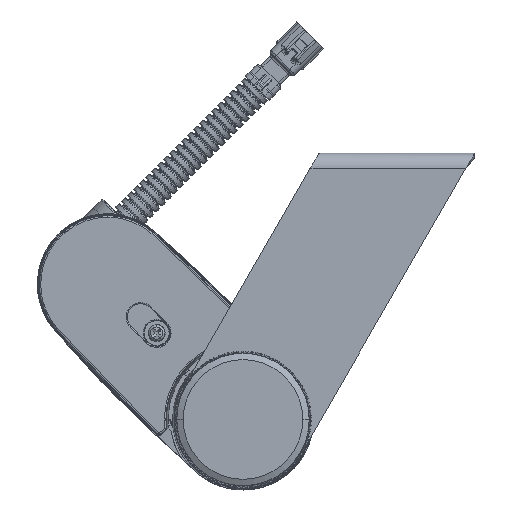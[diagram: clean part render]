
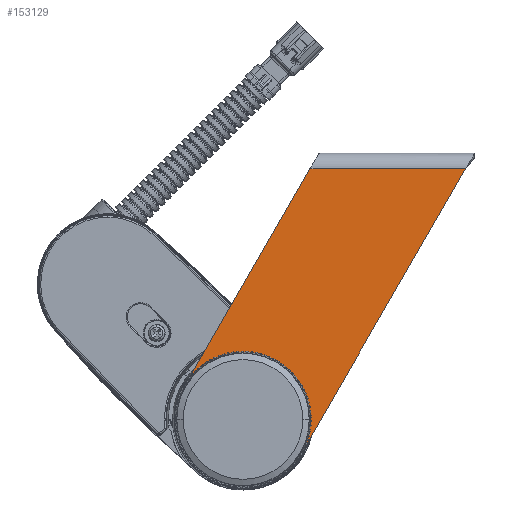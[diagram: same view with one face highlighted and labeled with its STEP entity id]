
A CAD part, left-side view. The second image highlights one B-rep face of the part: STEP entity #153129.
In plain terms, the highlighted planar face has unit normal (-1, 0, 0).
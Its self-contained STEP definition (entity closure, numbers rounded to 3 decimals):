
#1718 = LINE ( 'NONE', #68151, #120786 ) ;
#6010 = CARTESIAN_POINT ( 'NONE',  ( -91.2, 85.3, -103.245 ) ) ;
#6194 = AXIS2_PLACEMENT_3D ( 'NONE', #73006, #107947, #144758 ) ;
#9650 = CARTESIAN_POINT ( 'NONE',  ( -91.2, 85.283, -103.24 ) ) ;
#9742 = VERTEX_POINT ( 'NONE', #128396 ) ;
#10356 = VERTEX_POINT ( 'NONE', #105065 ) ;
#10381 = DIRECTION ( 'NONE',  ( 1., 0., 0. ) ) ;
#11682 = CARTESIAN_POINT ( 'NONE',  ( -91.2, 52.539, -5. ) ) ;
#12965 = ORIENTED_EDGE ( 'NONE', *, *, #104950, .F. ) ;
#13378 = DIRECTION ( 'NONE',  ( 1., 0., 0. ) ) ;
#14223 = AXIS2_PLACEMENT_3D ( 'NONE', #113732, #112191, #42479 ) ;
#15082 = ORIENTED_EDGE ( 'NONE', *, *, #58216, .F. ) ;
#15857 = LINE ( 'NONE', #6010, #103278 ) ;
#16509 = VERTEX_POINT ( 'NONE', #9650 ) ;
#17321 = VERTEX_POINT ( 'NONE', #127732 ) ;
#17774 = DIRECTION ( 'NONE',  ( 0., 0.966, -0.259 ) ) ;
#19805 = AXIS2_PLACEMENT_3D ( 'NONE', #49727, #110092, #111102 ) ;
#21007 = VERTEX_POINT ( 'NONE', #63776 ) ;
#21093 = CIRCLE ( 'NONE', #115735, 19.098 ) ;
#22927 = VECTOR ( 'NONE', #56633, 1000. ) ;
#23882 = CIRCLE ( 'NONE', #6194, 19.098 ) ;
#24060 = ORIENTED_EDGE ( 'NONE', *, *, #44378, .F. ) ;
#24149 = ORIENTED_EDGE ( 'NONE', *, *, #27274, .F. ) ;
#26676 = LINE ( 'NONE', #139845, #22927 ) ;
#27274 = EDGE_CURVE ( 'NONE', #50373, #99833, #53523, .T. ) ;
#27299 = CARTESIAN_POINT ( 'NONE',  ( -91.2, 73.901, -85. ) ) ;
#34549 = FACE_BOUND ( 'NONE', #110410, .T. ) ;
#36782 = PLANE ( 'NONE',  #63368 ) ;
#38748 = DIRECTION ( 'NONE',  ( -1., 0., 0. ) ) ;
#40309 = CARTESIAN_POINT ( 'NONE',  ( -91.2, 49.652, -5. ) ) ;
#41471 = EDGE_CURVE ( 'NONE', #109546, #21007, #71844, .T. ) ;
#42479 = DIRECTION ( 'NONE',  ( 0., 0., -1. ) ) ;
#44378 = EDGE_CURVE ( 'NONE', #17321, #10356, #21093, .T. ) ;
#48624 = ORIENTED_EDGE ( 'NONE', *, *, #89161, .F. ) ;
#49582 = CARTESIAN_POINT ( 'NONE',  ( -91.2, 55.661, -96.382 ) ) ;
#49727 = CARTESIAN_POINT ( 'NONE',  ( -91.2, 73.901, -85. ) ) ;
#50262 = CARTESIAN_POINT ( 'NONE',  ( -91.2, 73.901, -85. ) ) ;
#50373 = VERTEX_POINT ( 'NONE', #65233 ) ;
#51086 = ORIENTED_EDGE ( 'NONE', *, *, #148980, .F. ) ;
#52177 = VERTEX_POINT ( 'NONE', #98022 ) ;
#52259 = EDGE_CURVE ( 'NONE', #99833, #9742, #111407, .T. ) ;
#53523 = LINE ( 'NONE', #57831, #129832 ) ;
#56633 = DIRECTION ( 'NONE',  ( 0., 0.5, -0.866 ) ) ;
#57831 = CARTESIAN_POINT ( 'NONE',  ( -91.2, 49.652, 0. ) ) ;
#58216 = EDGE_CURVE ( 'NONE', #88215, #16509, #15857, .T. ) ;
#61933 = ORIENTED_EDGE ( 'NONE', *, *, #132801, .F. ) ;
#62440 = FACE_OUTER_BOUND ( 'NONE', #126255, .T. ) ;
#63368 = AXIS2_PLACEMENT_3D ( 'NONE', #50262, #13378, #96577 ) ;
#63776 = CARTESIAN_POINT ( 'NONE',  ( -91.2, 73.901, -106.5 ) ) ;
#63998 = ORIENTED_EDGE ( 'NONE', *, *, #52259, .F. ) ;
#65233 = CARTESIAN_POINT ( 'NONE',  ( -91.2, 92.52, -74.25 ) ) ;
#67445 = EDGE_CURVE ( 'NONE', #16509, #50373, #76942, .T. ) ;
#68151 = CARTESIAN_POINT ( 'NONE',  ( -91.2, 55.656, -96.4 ) ) ;
#69098 = DIRECTION ( 'NONE',  ( 0., 0.259, 0.966 ) ) ;
#71462 = EDGE_CURVE ( 'NONE', #21007, #152237, #119455, .T. ) ;
#71844 = CIRCLE ( 'NONE', #19805, 21.5 ) ;
#73006 = CARTESIAN_POINT ( 'NONE',  ( -91.2, 73.901, -85. ) ) ;
#75034 = EDGE_CURVE ( 'NONE', #132606, #109546, #1718, .T. ) ;
#76942 = CIRCLE ( 'NONE', #14223, 21.5 ) ;
#80719 = DIRECTION ( 'NONE',  ( 0., -0.5, 0.866 ) ) ;
#88215 = VERTEX_POINT ( 'NONE', #96832 ) ;
#88543 = CARTESIAN_POINT ( 'NONE',  ( -91.2, 55.931, -95.375 ) ) ;
#89161 = EDGE_CURVE ( 'NONE', #9742, #52177, #26676, .T. ) ;
#89201 = DIRECTION ( 'NONE',  ( 0., 0.966, -0.259 ) ) ;
#90947 = VECTOR ( 'NONE', #17774, 1000. ) ;
#91190 = AXIS2_PLACEMENT_3D ( 'NONE', #152840, #10381, #128941 ) ;
#92669 = VECTOR ( 'NONE', #69098, 1000. ) ;
#94607 = CARTESIAN_POINT ( 'NONE',  ( -91.2, 84.276, -102.97 ) ) ;
#96577 = DIRECTION ( 'NONE',  ( 0., 0., -1. ) ) ;
#96832 = CARTESIAN_POINT ( 'NONE',  ( -91.2, 84.276, -102.97 ) ) ;
#98022 = CARTESIAN_POINT ( 'NONE',  ( -91.2, 54.906, -95.1 ) ) ;
#99833 = VERTEX_POINT ( 'NONE', #11682 ) ;
#103278 = VECTOR ( 'NONE', #89201, 1000. ) ;
#103937 = LINE ( 'NONE', #88543, #90947 ) ;
#104950 = EDGE_CURVE ( 'NONE', #52177, #132606, #103937, .T. ) ;
#105065 = CARTESIAN_POINT ( 'NONE',  ( -91.2, 73.901, -65.902 ) ) ;
#107947 = DIRECTION ( 'NONE',  ( -1., 0., 0. ) ) ;
#109546 = VERTEX_POINT ( 'NONE', #49582 ) ;
#110092 = DIRECTION ( 'NONE',  ( 1., 0., 0. ) ) ;
#110234 = CARTESIAN_POINT ( 'NONE',  ( -91.2, 84.006, -103.977 ) ) ;
#110410 = EDGE_LOOP ( 'NONE', ( #24060, #51086 ) ) ;
#111102 = DIRECTION ( 'NONE',  ( 0., 0., -1. ) ) ;
#111407 = LINE ( 'NONE', #40309, #120674 ) ;
#112191 = DIRECTION ( 'NONE',  ( 1., 0., 0. ) ) ;
#113732 = CARTESIAN_POINT ( 'NONE',  ( -91.2, 73.901, -85. ) ) ;
#115735 = AXIS2_PLACEMENT_3D ( 'NONE', #27299, #38748, #121950 ) ;
#119455 = CIRCLE ( 'NONE', #91190, 21.5 ) ;
#120357 = ORIENTED_EDGE ( 'NONE', *, *, #71462, .F. ) ;
#120674 = VECTOR ( 'NONE', #123491, 1000. ) ;
#120786 = VECTOR ( 'NONE', #140449, 1000. ) ;
#121547 = ORIENTED_EDGE ( 'NONE', *, *, #41471, .F. ) ;
#121950 = DIRECTION ( 'NONE',  ( 0., 0., -1. ) ) ;
#123491 = DIRECTION ( 'NONE',  ( 0., -1., 0. ) ) ;
#126255 = EDGE_LOOP ( 'NONE', ( #121547, #153898, #12965, #48624, #63998, #24149, #129478, #15082, #61933, #120357 ) ) ;
#127732 = CARTESIAN_POINT ( 'NONE',  ( -91.2, 73.901, -104.098 ) ) ;
#128396 = CARTESIAN_POINT ( 'NONE',  ( -91.2, 2.887, -5. ) ) ;
#128941 = DIRECTION ( 'NONE',  ( 0., 0., -1. ) ) ;
#129478 = ORIENTED_EDGE ( 'NONE', *, *, #67445, .F. ) ;
#129832 = VECTOR ( 'NONE', #80719, 1000. ) ;
#132606 = VERTEX_POINT ( 'NONE', #149270 ) ;
#132801 = EDGE_CURVE ( 'NONE', #152237, #88215, #148471, .T. ) ;
#139845 = CARTESIAN_POINT ( 'NONE',  ( -91.2, 0., 0. ) ) ;
#140449 = DIRECTION ( 'NONE',  ( 0., -0.259, -0.966 ) ) ;
#144758 = DIRECTION ( 'NONE',  ( 0., 0., -1. ) ) ;
#148471 = LINE ( 'NONE', #94607, #92669 ) ;
#148980 = EDGE_CURVE ( 'NONE', #10356, #17321, #23882, .T. ) ;
#149270 = CARTESIAN_POINT ( 'NONE',  ( -91.2, 55.931, -95.375 ) ) ;
#152237 = VERTEX_POINT ( 'NONE', #110234 ) ;
#152840 = CARTESIAN_POINT ( 'NONE',  ( -91.2, 73.901, -85. ) ) ;
#153129 = ADVANCED_FACE ( 'NONE', ( #34549, #62440 ), #36782, .F. ) ;
#153898 = ORIENTED_EDGE ( 'NONE', *, *, #75034, .F. ) ;
